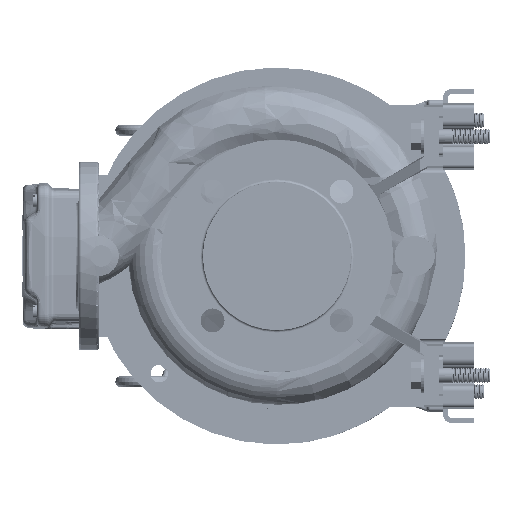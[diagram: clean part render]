
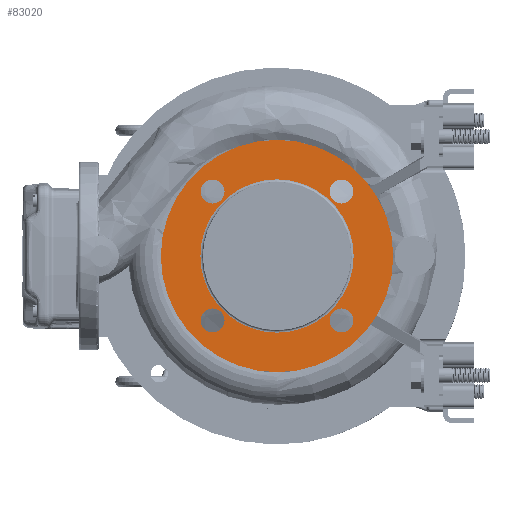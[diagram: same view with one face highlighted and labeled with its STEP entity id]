
A CAD part, left-side view. The second image highlights one B-rep face of the part: STEP entity #83020.
In plain terms, the highlighted planar face has unit normal (-1, 0, 0).
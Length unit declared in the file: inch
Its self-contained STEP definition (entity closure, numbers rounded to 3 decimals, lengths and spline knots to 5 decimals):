
#3750 = CARTESIAN_POINT ( 'NONE',  ( -2.17195, 6.81603, 9.21815 ) ) ;
#4875 = CARTESIAN_POINT ( 'NONE',  ( -2.17195, 7.19004, 13.25478 ) ) ;
#5057 = CARTESIAN_POINT ( 'NONE',  ( -2.17195, 7.56406, 13.25478 ) ) ;
#7328 = VERTEX_POINT ( 'NONE', #159691 ) ;
#10795 = EDGE_CURVE ( 'NONE', #116223, #7328, #130374, .T. ) ;
#16357 = AXIS2_PLACEMENT_3D ( 'NONE', #77917, #153992, #91568 ) ;
#16657 = CIRCLE ( 'NONE', #150399, 0.37402 ) ;
#19031 = CARTESIAN_POINT ( 'NONE',  ( -2.17195, 7.5733, 11.23647 ) ) ;
#20680 = DIRECTION ( 'NONE',  ( 0., 0., 1. ) ) ;
#25672 = DIRECTION ( 'NONE',  ( 0., -1., 0. ) ) ;
#28119 = DIRECTION ( 'NONE',  ( -1., 0., 0. ) ) ;
#28356 = EDGE_CURVE ( 'NONE', #122843, #144194, #70260, .T. ) ;
#29298 = CARTESIAN_POINT ( 'NONE',  ( -2.17195, 7.19004, 9.21815 ) ) ;
#31031 = FACE_BOUND ( 'NONE', #120860, .T. ) ;
#31663 = EDGE_CURVE ( 'NONE', #125746, #77743, #81685, .T. ) ;
#33017 = DIRECTION ( 'NONE',  ( 0., -1., 0. ) ) ;
#35479 = VERTEX_POINT ( 'NONE', #86832 ) ;
#36066 = CIRCLE ( 'NONE', #41554, 0.37402 ) ;
#37444 = DIRECTION ( 'NONE',  ( 0., 1., 0. ) ) ;
#38760 = AXIS2_PLACEMENT_3D ( 'NONE', #85422, #120709, #66080 ) ;
#38946 = ORIENTED_EDGE ( 'NONE', *, *, #59182, .F. ) ;
#40157 = CARTESIAN_POINT ( 'NONE',  ( -2.17195, 5.17172, 11.23647 ) ) ;
#40263 = CARTESIAN_POINT ( 'NONE',  ( -2.17195, 2.77939, 9.21815 ) ) ;
#40806 = EDGE_LOOP ( 'NONE', ( #58141, #38946 ) ) ;
#41554 = AXIS2_PLACEMENT_3D ( 'NONE', #89522, #151951, #37444 ) ;
#42614 = VERTEX_POINT ( 'NONE', #142118 ) ;
#42763 = EDGE_CURVE ( 'NONE', #7328, #116223, #98723, .T. ) ;
#46815 = CARTESIAN_POINT ( 'NONE',  ( -2.17195, 3.52742, 9.21815 ) ) ;
#50412 = VERTEX_POINT ( 'NONE', #89429 ) ;
#51040 = EDGE_CURVE ( 'NONE', #144194, #122843, #106984, .T. ) ;
#51332 = AXIS2_PLACEMENT_3D ( 'NONE', #78506, #28119, #132280 ) ;
#51629 = EDGE_LOOP ( 'NONE', ( #94152, #127290 ) ) ;
#52111 = DIRECTION ( 'NONE',  ( 0., -1., 0. ) ) ;
#55146 = VERTEX_POINT ( 'NONE', #91924 ) ;
#56836 = CIRCLE ( 'NONE', #51332, 0.37402 ) ;
#57466 = FACE_BOUND ( 'NONE', #51629, .T. ) ;
#58141 = ORIENTED_EDGE ( 'NONE', *, *, #110916, .F. ) ;
#59182 = EDGE_CURVE ( 'NONE', #50412, #42614, #73041, .T. ) ;
#61640 = DIRECTION ( 'NONE',  ( -1., 0., 0. ) ) ;
#64494 = AXIS2_PLACEMENT_3D ( 'NONE', #154662, #168295, #25672 ) ;
#64943 = CARTESIAN_POINT ( 'NONE',  ( -2.17195, 3.15341, 13.25478 ) ) ;
#66080 = DIRECTION ( 'NONE',  ( 0., -1., 0. ) ) ;
#68269 = ORIENTED_EDGE ( 'NONE', *, *, #121012, .F. ) ;
#70260 = CIRCLE ( 'NONE', #78402, 0.37402 ) ;
#72270 = CARTESIAN_POINT ( 'NONE',  ( -2.17195, 3.15341, 13.25478 ) ) ;
#73041 = CIRCLE ( 'NONE', #168478, 0.37402 ) ;
#74026 = DIRECTION ( 'NONE',  ( -1., 0., 0. ) ) ;
#76857 = DIRECTION ( 'NONE',  ( 0., -1., 0. ) ) ;
#77743 = VERTEX_POINT ( 'NONE', #40263 ) ;
#77917 = CARTESIAN_POINT ( 'NONE',  ( -2.17195, 3.15341, 9.21815 ) ) ;
#78336 = CIRCLE ( 'NONE', #100136, 0.37402 ) ;
#78402 = AXIS2_PLACEMENT_3D ( 'NONE', #4875, #84252, #33017 ) ;
#78506 = CARTESIAN_POINT ( 'NONE',  ( -2.17195, 7.19004, 9.21815 ) ) ;
#79177 = EDGE_CURVE ( 'NONE', #77743, #125746, #36066, .T. ) ;
#79679 = AXIS2_PLACEMENT_3D ( 'NONE', #88819, #141756, #76857 ) ;
#80848 = CIRCLE ( 'NONE', #64494, 2.40157 ) ;
#81590 = ORIENTED_EDGE ( 'NONE', *, *, #28356, .F. ) ;
#81685 = CIRCLE ( 'NONE', #16357, 0.37402 ) ;
#83020 = ADVANCED_FACE ( 'NONE', ( #147172, #162525, #136854, #160853, #31031, #57466 ), #123205, .F. ) ;
#84252 = DIRECTION ( 'NONE',  ( -1., 0., 0. ) ) ;
#84766 = DIRECTION ( 'NONE',  ( 1., 0., 0. ) ) ;
#85422 = CARTESIAN_POINT ( 'NONE',  ( -2.17195, 5.17172, 11.23647 ) ) ;
#85992 = DIRECTION ( 'NONE',  ( 0., -1., 0. ) ) ;
#86832 = CARTESIAN_POINT ( 'NONE',  ( -2.17195, 7.56406, 9.21815 ) ) ;
#88452 = EDGE_CURVE ( 'NONE', #55146, #91604, #102655, .T. ) ;
#88819 = CARTESIAN_POINT ( 'NONE',  ( -2.17195, 7.19004, 13.25478 ) ) ;
#88885 = DIRECTION ( 'NONE',  ( -1., 0., 0. ) ) ;
#89073 = DIRECTION ( 'NONE',  ( 0., 0., -1. ) ) ;
#89429 = CARTESIAN_POINT ( 'NONE',  ( -2.17195, 3.52742, 13.25478 ) ) ;
#89522 = CARTESIAN_POINT ( 'NONE',  ( -2.17195, 3.15341, 9.21815 ) ) ;
#90951 = EDGE_CURVE ( 'NONE', #35479, #94070, #56836, .T. ) ;
#91458 = EDGE_LOOP ( 'NONE', ( #116332, #114212 ) ) ;
#91568 = DIRECTION ( 'NONE',  ( 0., 1., 0. ) ) ;
#91604 = VERTEX_POINT ( 'NONE', #93128 ) ;
#91924 = CARTESIAN_POINT ( 'NONE',  ( -2.17195, 7.5733, 11.23647 ) ) ;
#93128 = CARTESIAN_POINT ( 'NONE',  ( -2.17195, 2.77015, 11.23647 ) ) ;
#93312 = ORIENTED_EDGE ( 'NONE', *, *, #42763, .T. ) ;
#94070 = VERTEX_POINT ( 'NONE', #3750 ) ;
#94152 = ORIENTED_EDGE ( 'NONE', *, *, #95721, .F. ) ;
#95045 = DIRECTION ( 'NONE',  ( 0., 1., 0. ) ) ;
#95721 = EDGE_CURVE ( 'NONE', #91604, #55146, #80848, .T. ) ;
#98723 = CIRCLE ( 'NONE', #38760, 3.64173 ) ;
#99889 = ORIENTED_EDGE ( 'NONE', *, *, #90951, .F. ) ;
#100136 = AXIS2_PLACEMENT_3D ( 'NONE', #29298, #61640, #20680 ) ;
#102655 = CIRCLE ( 'NONE', #127168, 2.40157 ) ;
#106984 = CIRCLE ( 'NONE', #79679, 0.37402 ) ;
#110916 = EDGE_CURVE ( 'NONE', #42614, #50412, #16657, .T. ) ;
#114212 = ORIENTED_EDGE ( 'NONE', *, *, #31663, .F. ) ;
#116223 = VERTEX_POINT ( 'NONE', #160712 ) ;
#116332 = ORIENTED_EDGE ( 'NONE', *, *, #79177, .F. ) ;
#120709 = DIRECTION ( 'NONE',  ( -1., 0., 0. ) ) ;
#120860 = EDGE_LOOP ( 'NONE', ( #81590, #150389 ) ) ;
#121012 = EDGE_CURVE ( 'NONE', #94070, #35479, #78336, .T. ) ;
#122232 = AXIS2_PLACEMENT_3D ( 'NONE', #40157, #155494, #52111 ) ;
#122843 = VERTEX_POINT ( 'NONE', #144549 ) ;
#123205 = PLANE ( 'NONE',  #137449 ) ;
#125746 = VERTEX_POINT ( 'NONE', #46815 ) ;
#127168 = AXIS2_PLACEMENT_3D ( 'NONE', #150084, #74026, #85992 ) ;
#127290 = ORIENTED_EDGE ( 'NONE', *, *, #88452, .F. ) ;
#127510 = DIRECTION ( 'NONE',  ( -1., 0., 0. ) ) ;
#130374 = CIRCLE ( 'NONE', #122232, 3.64173 ) ;
#132280 = DIRECTION ( 'NONE',  ( 0., 0., 1. ) ) ;
#136854 = FACE_BOUND ( 'NONE', #91458, .T. ) ;
#137449 = AXIS2_PLACEMENT_3D ( 'NONE', #19031, #84766, #95045 ) ;
#140168 = DIRECTION ( 'NONE',  ( 0., 0., -1. ) ) ;
#141756 = DIRECTION ( 'NONE',  ( -1., 0., 0. ) ) ;
#142118 = CARTESIAN_POINT ( 'NONE',  ( -2.17195, 2.77939, 13.25478 ) ) ;
#144194 = VERTEX_POINT ( 'NONE', #5057 ) ;
#144549 = CARTESIAN_POINT ( 'NONE',  ( -2.17195, 6.81603, 13.25478 ) ) ;
#147172 = FACE_OUTER_BOUND ( 'NONE', #163534, .T. ) ;
#150084 = CARTESIAN_POINT ( 'NONE',  ( -2.17195, 5.17172, 11.23647 ) ) ;
#150389 = ORIENTED_EDGE ( 'NONE', *, *, #51040, .F. ) ;
#150399 = AXIS2_PLACEMENT_3D ( 'NONE', #72270, #127510, #89073 ) ;
#151951 = DIRECTION ( 'NONE',  ( -1., 0., 0. ) ) ;
#153471 = ORIENTED_EDGE ( 'NONE', *, *, #10795, .T. ) ;
#153992 = DIRECTION ( 'NONE',  ( -1., 0., 0. ) ) ;
#154662 = CARTESIAN_POINT ( 'NONE',  ( -2.17195, 5.17172, 11.23647 ) ) ;
#155494 = DIRECTION ( 'NONE',  ( -1., 0., 0. ) ) ;
#159691 = CARTESIAN_POINT ( 'NONE',  ( -2.17195, 1.52999, 11.23647 ) ) ;
#160712 = CARTESIAN_POINT ( 'NONE',  ( -2.17195, 8.81346, 11.23647 ) ) ;
#160724 = EDGE_LOOP ( 'NONE', ( #68269, #99889 ) ) ;
#160853 = FACE_BOUND ( 'NONE', #160724, .T. ) ;
#162525 = FACE_BOUND ( 'NONE', #40806, .T. ) ;
#163534 = EDGE_LOOP ( 'NONE', ( #93312, #153471 ) ) ;
#168295 = DIRECTION ( 'NONE',  ( -1., 0., 0. ) ) ;
#168478 = AXIS2_PLACEMENT_3D ( 'NONE', #64943, #88885, #140168 ) ;
